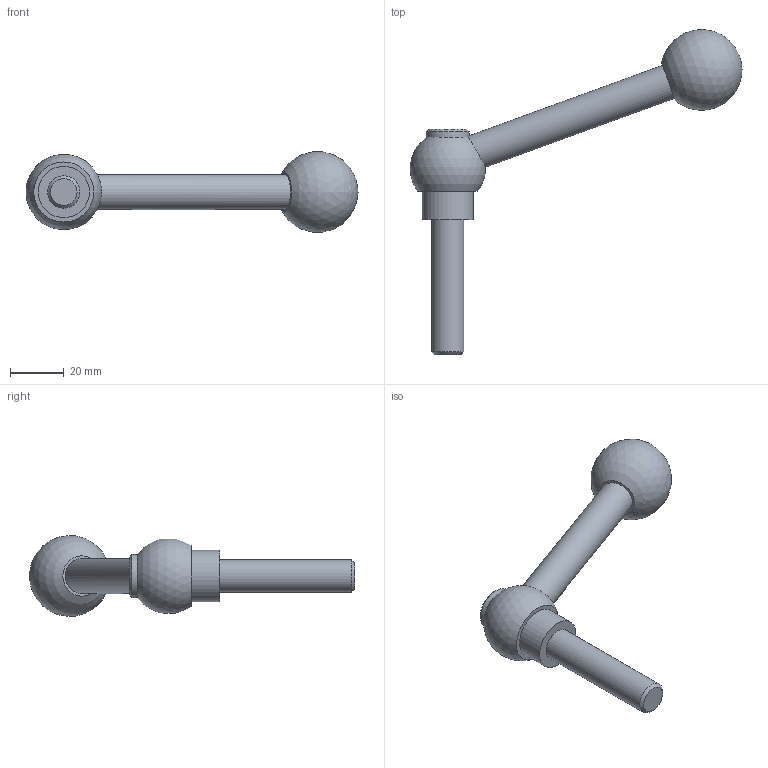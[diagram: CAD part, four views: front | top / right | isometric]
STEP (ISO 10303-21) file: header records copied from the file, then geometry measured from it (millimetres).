
FILE_DESCRIPTION( ( 'STEP AP203' ), '1' );
FILE_NAME( 'C:/Temp/Ganter_Step_05_03_2020/data/2_1/gn_6337_3/gn_6337_3_ms/gn_6337_3_ms_n/Adjustable clamping lever with bolt GN 6337.3-28-M12-50-N.stp', '2020-03-05T11:41:20', ( 'License CC BY-ND 4.0' ), ( 'CADENAS' ), ' ', 'PARTsolutions', ' ' );
FILE_SCHEMA( ( 'CONFIG_CONTROL_DESIGN' ) );
Length unit declared in the file: millimetre
Products named in the file (1): _Adjustable clamping lever with bolt GN 6337.3-28-M12-50-N
Bounding box: 122.99 x 120.49 x 29.7 mm (x, y, z)
Volume: 43151 mm3; surface area: 10580.8 mm2
Topology: 1 solids, 1 shells, 13 faces, 25 edges, 16 vertices
Faces by surface type: plane 5, cylinder 4, cone 2, sphere 2
Full cylindrical faces by diameter (mm): 12 x1, 13 x1, 15.969 x1, 19 x1
Entity records: 386 total; most frequent: CARTESIAN_POINT 124, DIRECTION 50, ORIENTED_EDGE 26, AXIS2_PLACEMENT_3D 25, EDGE_LOOP 23, FACE_OUTER_BOUND 18, ADVANCED_FACE 13, VERTEX_POINT 13
